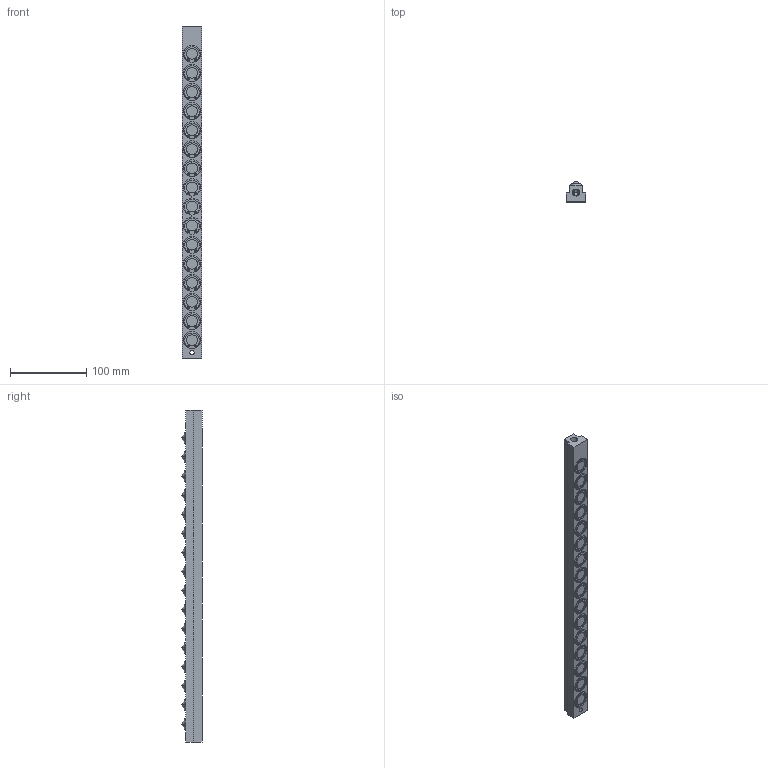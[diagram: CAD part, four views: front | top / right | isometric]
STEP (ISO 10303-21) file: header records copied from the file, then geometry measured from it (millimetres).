
FILE_DESCRIPTION (( 'STEP AP203' ), '1' );
FILE_NAME ('PVL13T-16.STEP', '2015-12-24T05:44:27', ( '' ), ( '' ), 'SwSTEP 2.0', 'SolidWorks 2013', '' );
FILE_SCHEMA (( 'CONFIG_CONTROL_DESIGN' ));
Length unit declared in the file: millimetre
Products named in the file (1): PVL13T-16
Bounding box: 25 x 26.26 x 435 mm (x, y, z)
Volume: 198408.4 mm3; surface area: 46955.4 mm2
Topology: 2 solids, 2 shells, 488 faces, 1164 edges, 778 vertices
Faces by surface type: cylinder 266, plane 150, torus 32, sphere 32, cone 8
Entity records: 14607 total; most frequent: DIRECTION 2870, CARTESIAN_POINT 2427, ORIENTED_EDGE 2320, AXIS2_PLACEMENT_3D 1221, EDGE_CURVE 1160, VERTEX_POINT 778, CIRCLE 732, EDGE_LOOP 592
